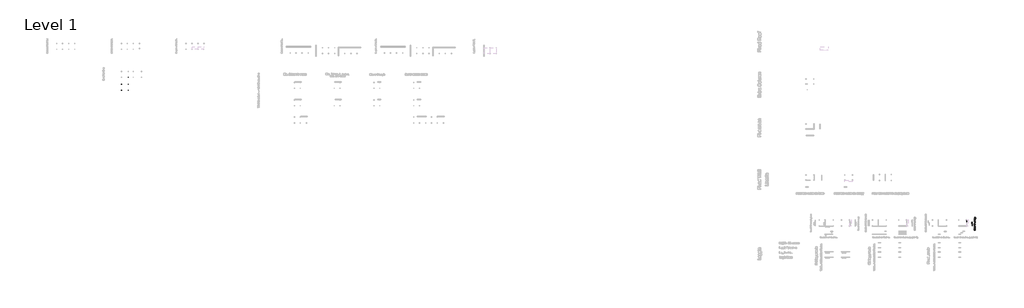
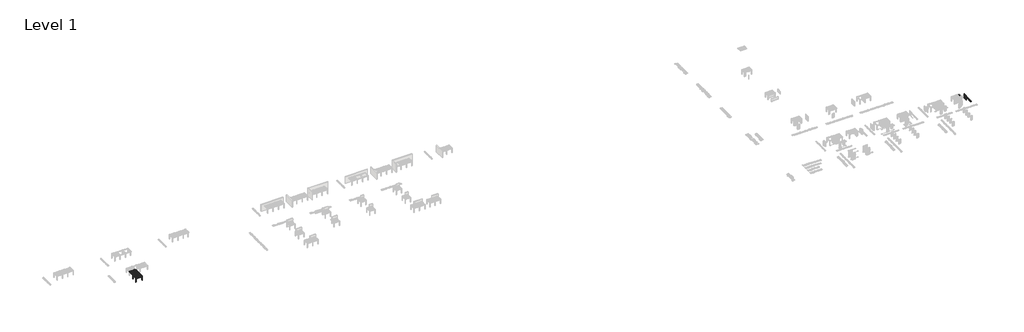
# One storey, part 40 of 80: 5 proxies.
"""IFC4 building model written with IfcOpenShell, lengths in millimetres."""

from ifc_helpers import new_model, si_unit, origin, origin_with_axes, place, context, project, spatial, polyline, outline, extrude, transform, mapped, element, save
from components import generic_models_fa1a9668, generic_models_32e5b0d9

model = new_model("IFC4")

# Units and contexts
model_context = context("Model", 3, world=origin())
ifc_project = project(units=[si_unit("LENGTHUNIT", "METRE", prefix="MILLI")], contexts=[model_context])

# Site, building, storey
site = spatial("IfcSite", under=ifc_project)
building = spatial("IfcBuilding", under=site)
storey = spatial("IfcBuildingStorey", under=building, Name="Level 1", Elevation=0.0)

# Proxies
placement = place(None, origin())
generic_models_shape = generic_models_fa1a9668(model_context)
element("IfcBuildingElementProxy", 1, Name="Renson_Amani_Loggia_Paro_Aluminium_Fix : Renson_Amani_Loggia_Paro_Aluminium_Fix", ObjectType="Renson_Amani_Loggia_Paro_Aluminium_Fix : Renson_Amani_Loggia_Paro_Aluminium_Fix", at=placement, inside=storey, context=model_context, shape_type="MappedRepresentation", body=[
    mapped(generic_models_shape, transform((461910.5749426, -38659.318181, 0.0), x_axis=(0.0, -1.0, 0.0), y_axis=(1.0, 0.0, 0.0), z_axis=(0.0, 0.0, 1.0))),
])
element("IfcBuildingElementProxy", 2, Name="Renson_Amani_Loggia_Paro_Aluminium_Fix : Renson_Amani_Loggia_Paro_Aluminium_Fix", ObjectType="Renson_Amani_Loggia_Paro_Aluminium_Fix : Renson_Amani_Loggia_Paro_Aluminium_Fix", at=placement, inside=storey, context=model_context, shape_type="MappedRepresentation", body=[
    mapped(generic_models_shape, transform((464460.6598644, -39559.318181, 0.0), x_axis=(0.0, -1.0, 0.0), y_axis=(1.0, 0.0, 0.0), z_axis=(0.0, 0.0, 1.0))),
])
element("IfcBuildingElementProxy", 3, Name="Renson_Amani_Loggia_Paro_Aluminium_Fix : Renson_Amani_Loggia_Paro_Aluminium_Fix", ObjectType="Renson_Amani_Loggia_Paro_Aluminium_Fix : Renson_Amani_Loggia_Paro_Aluminium_Fix", at=placement, inside=storey, context=model_context, shape_type="MappedRepresentation", body=[
    mapped(generic_models_shape, transform((464546.7447862, -40459.318181, 0.0), x_axis=(0.0, -1.0, 0.0), y_axis=(1.0, 0.0, 0.0), z_axis=(0.0, 0.0, 1.0))),
])
generic_models_2_shape = generic_models_32e5b0d9(model_context)
element("IfcBuildingElementProxy", 4, Name="Renson_Amani_Patio_Cover : Renson_Amani_Patio_Cover", ObjectType="Renson_Amani_Patio_Cover : Renson_Amani_Patio_Cover", at=placement, inside=storey, context=model_context, shape_type="MappedRepresentation", body=[
    mapped(generic_models_2_shape, transform((48903.165057, 30228.5861401, 0.0), x_axis=(0.0, -1.0, 0.0), y_axis=(1.0, 0.0, 0.0), z_axis=(0.0, 0.0, 1.0))),
])
element("IfcBuildingElementProxy", 5, Name="500mm Arial", ObjectType="500mm Arial", at=placement, inside=storey, context=model_context, shape_type="SweptSolid", body=[
    extrude(outline(polyline([(466050.5945715, -43163.3057532), (465548.3130208, -43163.3057532), (465548.3130208, -43100.5205594), (466050.5945715, -43100.5205594), (466050.5945715, -43163.3057532)])), origin_with_axes(), (0.0, 0.0, 1.0), 5.0),
    extrude(outline(polyline([(466050.5945715, -42982.7983209), (465681.7315577, -42982.7983209), (465681.7315577, -42920.0131271), (465733.235037, -42920.0131271), (465707.2686995, -42898.2007904), (465688.7213156, -42872.0045267), (465677.5928852, -42841.4243358), (465673.8834085, -42806.4602179), (465676.8724497, -42775.512145), (465685.8395733, -42747.169903), (465699.665805, -42723.5334848), (465717.2321702, -42706.7028835), (465738.4926839, -42695.2832133), (465763.4013606, -42687.8795881), (465824.1018898, -42684.5686501), (466050.5945715, -42684.5686501), (466050.5945715, -42747.353844), (465832.5631757, -42747.353844), (465800.0975896, -42749.1625971), (465777.0129944, -42754.5888566), (465760.4736331, -42764.5983125), (465747.6437485, -42780.1566552), (465739.4123889, -42800.098925), (465736.6686023, -42823.2601623), (465738.2091082, -42842.3248803), (465742.8306257, -42860.0330334), (465750.533155, -42876.3846217), (465761.316696, -42891.3796451), (465776.407522, -42903.9067935), (465797.0319063, -42912.8547566), (465823.189849, -42918.2235344), (465854.8813501, -42920.0131271), (466050.5945715, -42920.0131271), (466050.5945715, -42982.7983209)])), origin_with_axes(), (0.0, 0.0, 1.0), 5.0),
    extrude(outline(polyline([(465940.7204823, -42621.7834563), (465932.8723331, -42558.9982625), (465959.7277187, -42549.0961054), (465979.4707191, -42529.9355848), (465991.610825, -42501.3940734), (465995.6575269, -42463.3489437), (465991.9480501, -42425.7636665), (465980.8196198, -42399.3374766), (465964.6941257, -42383.7024918), (465945.9934576, -42378.4908302), (465929.9905908, -42383.7331486), (465917.7891713, -42399.4601039), (465899.8855808, -42464.0847077), (465883.3155626, -42521.3823285), (465869.1674342, -42558.6303805), (465853.7317189, -42582.5580386), (465833.2989397, -42599.8944776), (465809.1720122, -42610.4250997), (465782.6538517, -42613.9353071), (465758.3276548, -42611.1148784), (465735.8715247, -42602.6535926), (465716.1745095, -42589.3178702), (465700.1256575, -42571.8741323), (465690.024231, -42554.5376933), (465681.5476167, -42531.9589358), (465675.7994605, -42505.8546426), (465673.8834085, -42477.9415962), (465676.9644202, -42437.0760379), (465686.2074553, -42401.5447685), (465700.7081373, -42372.9726002), (465719.5620895, -42352.9843452), (465744.164198, -42339.7405933), (465775.9093485, -42331.4019348), (465783.7574977, -42394.1871286), (465763.9991689, -42402.1119199), (465749.1152765, -42417.79289), (465739.7802709, -42441.3833229), (465736.6686023, -42473.0365029), (465739.6423151, -42509.0889384), (465748.5634535, -42533.1238955), (465761.4393233, -42546.6435588), (465776.2772305, -42551.1501132), (465785.9341328, -42549.2800464), (465794.5487029, -42543.669846), (465802.2435679, -42534.0742573), (465808.4055914, -42520.2480256), (465821.7719705, -42466.1693723), (465851.3251575, -42374.0149325), (465865.4579575, -42349.6734072), (465884.802419, -42331.2179938), (465909.4198559, -42319.5837257), (465939.3715817, -42315.7056363), (465970.3349829, -42320.258176), (465999.4589742, -42333.9157951), (466024.4596215, -42356.1573274), (466043.0529906, -42386.4616067), (466054.5952882, -42423.0658652), (466058.4427208, -42464.207335), (466056.5879824, -42497.9988291), (466051.0237672, -42527.513695), (466041.7500752, -42552.7519327), (466028.7669065, -42573.7135423), (466012.1355746, -42590.8353835), (465991.9173933, -42604.5543162), (465968.1123625, -42614.8703405), (465940.7204823, -42621.7834563)])), origin_with_axes(), (0.0, 0.0, 1.0), 5.0),
    extrude(outline(polyline([(465940.7204823, -41986.8191326), (465948.5686315, -41925.2602121), (465973.2243894, -41934.6986845), (465994.9524198, -41947.4404307), (466013.7527225, -41963.4854507), (466029.6252978, -41982.8337443), (466042.2329203, -42005.2860424), (466051.238365, -42030.6430753), (466056.6416318, -42058.9048432), (466058.4427208, -42090.0713459), (466055.3348843, -42129.0285164), (466046.011375, -42163.7397155), (466030.4721928, -42194.2049432), (466008.7173377, -42220.4241996), (465981.3522822, -42241.5084364), (465948.9824988, -42256.5686056), (465911.6079873, -42265.6047071), (465869.2287479, -42268.6167409), (465825.4124694, -42265.5740503), (465786.7925242, -42256.4459783), (465753.368912, -42241.2325249), (465725.1416331, -42219.9336902), (465702.7161598, -42193.7834117), (465686.6979646, -42164.015627), (465677.0870475, -42130.6303359), (465673.8834085, -42093.6275386), (465677.0793833, -42057.8165256), (465686.6673078, -42025.4314137), (465702.647182, -41996.4722029), (465725.0190058, -41970.9388932), (465753.184971, -41950.0960789), (465786.5472695, -41935.2083544), (465825.1059011, -41926.2757197), (465868.8608659, -41923.2981748), (465885.7834377, -41923.6660568), (465885.7834377, -42205.8315471), (465910.8377344, -42202.1948803), (465932.7803626, -42194.9636998), (465951.6113222, -42184.1380057), (465967.3306133, -42169.7177979), (465979.723638, -42152.5001541), (465988.5757985, -42133.282152), (465993.8870948, -42112.0637915), (465995.6575269, -42088.8450726), (465992.3772458, -42055.4291247), (465982.5364024, -42027.2861521), (465965.5218601, -42004.4161547), (465940.7204823, -41986.8191326)]), holes=[polyline([(465822.9982438, -42205.8315471), (465822.9982438, -41986.0833686), (465789.8275506, -41994.5753114), (465766.0991619, -42011.2219716), (465753.2232921, -42028.3438128), (465744.0262422, -42047.8262302), (465738.5080123, -42069.6692236), (465736.6686023, -42093.8727932), (465742.5393858, -42136.1945511), (465749.8778652, -42154.6078114), (465760.1517363, -42171.1893259), (465772.8858183, -42185.1036959), (465787.6049302, -42195.5155228), (465804.3090721, -42202.4248065), (465822.9982438, -42205.8315471)])]), origin_with_axes(), (0.0, 0.0, 1.0), 5.0),
    extrude(outline(polyline([(465998.2327009, -41491.6499671), (466052.4339815, -41483.8018179), (466058.4427208, -41530.7680859), (466055.83689, -41560.9037527), (466048.0193976, -41583.3752112), (466035.9712622, -41599.2554507), (466020.6735026, -41609.6174602), (465994.4005968, -41615.3196312), (465949.4270229, -41617.2203548), (465744.5167515, -41617.2203548), (465744.5167515, -41664.3092502), (465693.2585269, -41664.3092502), (465681.7315577, -41664.3092502), (465681.7315577, -41617.2203548), (465592.0909782, -41617.2203548), (465555.1801514, -41554.435161), (465681.7315577, -41554.435161), (465681.7315577, -41491.6499671), (465744.5167515, -41491.6499671), (465744.5167515, -41554.435161), (465947.5876129, -41554.435161), (465979.9612285, -41551.124223), (465991.426884, -41540.3943315), (465995.6575269, -41518.9958621), (465998.2327009, -41491.6499671)])), origin_with_axes(), (0.0, 0.0, 1.0), 5.0),
    extrude(outline(polyline([(466050.5945715, -41860.5129809), (465681.7315577, -41860.5129809), (465681.7315577, -41805.5759363), (465736.3007203, -41805.5759363), (465704.6628687, -41785.2811129), (465686.0235143, -41766.5804448), (465676.9184349, -41747.8184631), (465673.8834085, -41727.3396987), (465678.7271881, -41696.0697291), (465693.2585269, -41664.3092502), (465749.5444721, -41685.2785239), (465739.8875698, -41707.3514436), (465736.6686023, -41729.4243633), (465739.7649424, -41748.1710167), (465749.0539628, -41764.9249759), (465763.8305563, -41778.4599676), (465783.3896157, -41787.5497186), (465818.4610326, -41795.18327), (465856.7207601, -41797.7277871), (466050.5945715, -41797.7277871), (466050.5945715, -41860.5129809)])), origin_with_axes(), (0.0, 0.0, 1.0), 5.0),
    extrude(outline(polyline([(465940.7204823, -41452.409221), (465932.8723331, -41389.6240271), (465959.7277187, -41379.7218701), (465979.4707191, -41360.5613495), (465991.610825, -41332.019838), (465995.6575269, -41293.9747084), (465991.9480501, -41256.3894312), (465980.8196198, -41229.9632412), (465964.6941257, -41214.3282564), (465945.9934576, -41209.1165948), (465929.9905908, -41214.3589133), (465917.7891713, -41230.0858685), (465899.8855808, -41294.7104724), (465883.3155626, -41352.0080931), (465869.1674342, -41389.2561451), (465853.7317189, -41413.1838032), (465833.2989397, -41430.5202423), (465809.1720122, -41441.0508644), (465782.6538517, -41444.5610717), (465758.3276548, -41441.7406431), (465735.8715247, -41433.2793572), (465716.1745095, -41419.9436349), (465700.1256575, -41402.499897), (465690.024231, -41385.1634579), (465681.5476167, -41362.5847005), (465675.7994605, -41336.4804072), (465673.8834085, -41308.5673609), (465676.9644202, -41267.7018026), (465686.2074553, -41232.1705332), (465700.7081373, -41203.5983649), (465719.5620895, -41183.6101098), (465744.164198, -41170.366358), (465775.9093485, -41162.0276994), (465783.7574977, -41224.8128933), (465763.9991689, -41232.7376846), (465749.1152765, -41248.4186546), (465739.7802709, -41272.0090876), (465736.6686023, -41303.6622676), (465739.6423151, -41339.7147031), (465748.5634535, -41363.7496601), (465761.4393233, -41377.2693235), (465776.2772305, -41381.7758779), (465785.9341328, -41379.9058111), (465794.5487029, -41374.2956107), (465802.2435679, -41364.7000219), (465808.4055914, -41350.8737903), (465821.7719705, -41296.795137), (465851.3251575, -41204.6406972), (465865.4579575, -41180.2991719), (465884.802419, -41161.8437584), (465909.4198559, -41150.2094903), (465939.3715817, -41146.331401), (465970.3349829, -41150.8839407), (465999.4589742, -41164.5415597), (466024.4596215, -41186.783092), (466043.0529906, -41217.0873714), (466054.5952882, -41253.6916299), (466058.4427208, -41294.8330997), (466056.5879824, -41328.6245938), (466051.0237672, -41358.1394597), (466041.7500752, -41383.3776974), (466028.7669065, -41404.3393069), (466012.1355746, -41421.4611481), (465991.9173933, -41435.1800809), (465968.1123625, -41445.4961051), (465940.7204823, -41452.409221)])), origin_with_axes(), (0.0, 0.0, 1.0), 5.0),
    extrude(outline(polyline([(466050.5945715, -40816.7091333), (466050.5945715, -40879.4943271), (465548.3130208, -40879.4943271), (465548.3130208, -40816.7091333), (465734.5839377, -40816.7091333), (465708.0274561, -40796.0617563), (465689.0585408, -40772.7472349), (465677.6771915, -40746.765569), (465673.8834085, -40718.1167586), (465677.3016453, -40685.7737998), (465687.556356, -40655.2089374), (465704.0037468, -40628.1696108), (465726.0000244, -40606.4032594), (465753.330591, -40589.3427319), (465785.7808487, -40576.4208768), (465822.0018968, -40568.2814876), (465860.6448347, -40565.5683579), (465905.2351982, -40568.3772902), (465944.4606159, -40576.8040872), (465978.3210879, -40590.8487488), (466006.8166141, -40610.511275), (466029.4030358, -40634.1132043), (466045.5361941, -40659.9760749), (466055.2160891, -40688.099887), (466058.4427208, -40718.4846406), (466054.2810557, -40748.0761486), (466041.7960605, -40774.3107334), (466020.9877351, -40797.1883949), (465991.8560796, -40816.7091333), (466050.5945715, -40816.7091333)]), holes=[polyline([(465863.5878906, -40816.7091333), (465915.9497613, -40812.4171767), (465935.7847322, -40807.0522309), (465951.3890602, -40799.5413069), (465970.7565144, -40784.3278535), (465984.5904102, -40766.6465251), (465992.8907477, -40746.4973217), (465995.6575269, -40723.8802432), (465993.6188475, -40705.102933), (465987.5028094, -40687.6438667), (465977.3094124, -40671.5030441), (465963.0386567, -40656.6804654), (465944.7288632, -40644.2874407), (465922.418353, -40635.4352802), (465896.1071262, -40630.1239839), (465865.7951826, -40628.3535518), (465834.9084234, -40630.0511739), (465808.3442777, -40635.1440403), (465786.1027454, -40643.6321509), (465768.1838266, -40655.5155057), (465754.395916, -40669.805422), (465744.5474084, -40685.5132168), (465738.6383038, -40702.6388901), (465736.6686023, -40721.1824419), (465738.7072817, -40739.9597521), (465744.8233199, -40757.4188184), (465755.0167168, -40773.5596409), (465769.2874725, -40788.3822197), (465787.413325, -40800.7752444), (465809.1720122, -40809.6274049), (465834.5635341, -40814.9387012), (465863.5878906, -40816.7091333)])]), origin_with_axes(), (0.0, 0.0, 1.0), 5.0),
    extrude(outline(polyline([(465940.7204823, -40236.6818542), (465948.5686315, -40175.1229337), (465973.2243894, -40184.5614062), (465994.9524198, -40197.3031523), (466013.7527225, -40213.3481723), (466029.6252978, -40232.696466), (466042.2329203, -40255.148764), (466051.238365, -40280.5057969), (466056.6416318, -40308.7675648), (466058.4427208, -40339.9340676), (466055.3348843, -40378.891238), (466046.011375, -40413.6024371), (466030.4721928, -40444.0676648), (466008.7173377, -40470.2869212), (465981.3522822, -40491.371158), (465948.9824988, -40506.4313272), (465911.6079873, -40515.4674287), (465869.2287479, -40518.4794625), (465825.4124694, -40515.4367719), (465786.7925242, -40506.3086999), (465753.368912, -40491.0952465), (465725.1416331, -40469.7964118), (465702.7161598, -40443.6461334), (465686.6979646, -40413.8783486), (465677.0870475, -40380.4930575), (465673.8834085, -40343.4902602), (465677.0793833, -40307.6792472), (465686.6673078, -40275.2941353), (465702.647182, -40246.3349245), (465725.0190058, -40220.8016148), (465753.184971, -40199.9588005), (465786.5472695, -40185.071076), (465825.1059011, -40176.1384413), (465868.8608659, -40173.1608964), (465885.7834377, -40173.5287784), (465885.7834377, -40455.6942687), (465910.8377344, -40452.0576019), (465932.7803626, -40444.8264214), (465951.6113222, -40434.0007273), (465967.3306133, -40419.5805195), (465979.723638, -40402.3628757), (465988.5757985, -40383.1448736), (465993.8870948, -40361.9265131), (465995.6575269, -40338.7077942), (465992.3772458, -40305.2918463), (465982.5364024, -40277.1488737), (465965.5218601, -40254.2788763), (465940.7204823, -40236.6818542)]), holes=[polyline([(465822.9982438, -40455.6942687), (465822.9982438, -40235.9460902), (465789.8275506, -40244.438033), (465766.0991619, -40261.0846933), (465753.2232921, -40278.2065344), (465744.0262422, -40297.6889518), (465738.5080123, -40319.5319452), (465736.6686023, -40343.7355148), (465742.5393858, -40386.0572727), (465749.8778652, -40404.470533), (465760.1517363, -40421.0520475), (465772.8858183, -40434.9664175), (465787.6049302, -40445.3782444), (465804.3090721, -40452.2875281), (465822.9982438, -40455.6942687)])]), origin_with_axes(), (0.0, 0.0, 1.0), 5.0),
    extrude(outline(polyline([(466050.5945715, -40110.3757026), (465548.3130208, -40110.3757026), (465548.3130208, -40047.5905087), (466050.5945715, -40047.5905087), (466050.5945715, -40110.3757026)])), origin_with_axes(), (0.0, 0.0, 1.0), 5.0),
    extrude(outline(polyline([(465866.1630646, -39969.1090164), (465818.3920547, -39965.7137722), (465777.2275923, -39955.5280394), (465742.6696774, -39938.5518182), (465714.7183099, -39914.7851085), (465696.8530405, -39890.8574504), (465684.0921338, -39864.4465888), (465676.4355898, -39835.5525237), (465673.8834085, -39804.1752552), (465676.9912449, -39769.5368661), (465686.3147542, -39738.2170792), (465701.8539364, -39710.2158944), (465723.6087915, -39685.5333118), (465750.8435554, -39665.3879405), (465782.8224643, -39650.9983895), (465819.545518, -39642.3646589), (465861.0127167, -39639.4867487), (465924.441704, -39644.575783), (465950.4770194, -39650.9370758), (465972.7262159, -39659.8428858), (465991.944218, -39671.1820819), (466008.8859503, -39684.8435331), (466023.5514128, -39700.8272393), (466035.9406054, -39719.1332007), (466052.8171919, -39759.8608032), (466058.4427208, -39804.1752552), (466055.3463806, -39839.3194821), (466046.0573603, -39870.9305089), (466030.5756596, -39899.0083358), (466008.9012787, -39923.5529627), (465981.4020996, -39943.4837362), (465948.4460042, -39957.720003), (465910.0329925, -39966.2617631), (465866.1630646, -39969.1090164)]), holes=[polyline([(465866.0404373, -39906.3238226), (465896.4941687, -39904.5074052), (465922.8628771, -39899.0581532), (465945.1465626, -39889.9760664), (465963.345225, -39877.261145), (465977.4818571, -39861.7947727), (465987.5794514, -39844.4583337), (465993.638008, -39825.2518279), (465995.6575269, -39804.1752552), (465993.6265117, -39783.2059815), (465987.5334662, -39764.0761178), (465977.3783903, -39746.785664), (465963.161284, -39731.3346202), (465944.7825127, -39718.6196987), (465922.1424415, -39709.537612), (465895.2410706, -39704.0883599), (465864.0784, -39702.2719426), (465834.5903588, -39704.0998562), (465808.9114291, -39709.5835972), (465787.0416109, -39718.7231655), (465768.9809042, -39731.5185612), (465754.8442721, -39747.0270866), (465744.7466778, -39764.306044), (465738.6881212, -39783.3554336), (465736.6686023, -39804.1752552), (465738.680457, -39825.2518279), (465744.716021, -39844.4583337), (465754.7752943, -39861.7947727), (465768.8582769, -39877.261145), (465787.0032899, -39889.9760664), (465809.2486543, -39899.0581532), (465835.5943701, -39904.5074052), (465866.0404373, -39906.3238226)])]), origin_with_axes(), (0.0, 0.0, 1.0), 5.0),
    extrude(outline(polyline([(466050.5945715, -39507.6623671), (465681.7315577, -39619.8663757), (465681.7315577, -39554.6286352), (465896.9425249, -39490.98505), (465973.8298619, -39471.9778136), (465899.7629535, -39456.4041425), (465681.7315577, -39405.7590545), (465681.7315577, -39330.9563821), (465899.1498168, -39280.5565488), (465966.2269673, -39266.6996603), (465895.4709969, -39246.8340325), (465681.7315577, -39183.0678201), (465681.7315577, -39117.5848249), (466050.5945715, -39230.6472248), (466050.5945715, -39306.5535431), (465834.2799584, -39354.7460845), (465766.8349259, -39368.7256003), (466050.5945715, -39430.8976575), (466050.5945715, -39507.6623671)])), origin_with_axes(), (0.0, 0.0, 1.0), 5.0),
    extrude(outline(polyline([(465917.1760346, -38642.7717965), (465925.0241838, -38579.9866026), (465954.6501808, -38586.8154122), (465980.865605, -38597.4916542), (466003.6704566, -38612.0153288), (466023.0647356, -38630.386436), (466038.5426041, -38651.8308906), (466049.5982245, -38675.5746077), (466056.2315967, -38701.6175873), (466058.4427208, -38729.9598293), (466055.3578769, -38765.1730341), (466046.1033455, -38796.7457399), (466030.6791264, -38824.6779468), (466009.0852197, -38848.9696548), (465981.7278284, -38868.632181), (465949.0131556, -38882.6768426), (465910.9412012, -38891.1036395), (465867.5119653, -38893.9125718), (465811.6398872, -38889.1147775), (465763.2174196, -38874.7213944), (465742.2673064, -38863.8688756), (465724.1146292, -38850.5024964), (465708.759388, -38834.622257), (465696.2015828, -38816.2281572), (465679.4629521, -38775.2246431), (465673.8834085, -38730.8182206), (465675.7994605, -38702.9626558), (465681.5476167, -38677.7665713), (465691.127877, -38655.229967), (465704.5402414, -38635.3528429), (465721.4781416, -38618.4724243), (465741.6350092, -38604.9259362), (465765.0108444, -38594.7133787), (465791.6056469, -38587.8347519), (465799.4537962, -38650.6199457), (465772.0619159, -38662.0089591), (465752.4262144, -38679.743937), (465740.6080053, -38702.8438606), (465736.6686023, -38730.3277113), (465738.607647, -38751.6610349), (465744.424781, -38770.9020297), (465754.1200045, -38788.0506956), (465767.6933172, -38803.1070327), (465785.4589519, -38815.3659338), (465807.731141, -38824.1222917), (465834.5098846, -38829.3761064), (465865.7951826, -38831.127378), (465897.5518294, -38829.4144275), (465924.6409734, -38824.2755758), (465947.0626146, -38815.7108231), (465964.816753, -38803.7201694), (465978.3095916, -38788.9627364), (465987.9473334, -38772.0976462), (465993.7299785, -38753.1248987), (465995.6575269, -38732.044494), (465990.8444041, -38699.5329226), (465976.4050358, -38672.8768064), (465965.4835391, -38662.0970975), (465951.97154, -38653.4863596), (465917.1760346, -38642.7717965)])), origin_with_axes(), (0.0, 0.0, 1.0), 5.0),
    extrude(outline(polyline([(466003.5056761, -38289.6050811), (466029.226759, -38319.6027921), (466046.0573603, -38350.4895513), (466055.3463806, -38382.9704658), (466058.4427208, -38417.7506428), (466056.5803182, -38445.7058423), (466050.9931104, -38470.2198123), (466041.6810974, -38491.2925529), (466028.6442791, -38508.9240639), (466012.7103902, -38522.8460981), (465994.7071651, -38532.7904083), (465974.6346037, -38538.7569944), (465952.4927061, -38540.7458565), (465926.465055, -38537.7414868), (465902.8286368, -38528.728378), (465882.5951271, -38514.8255042), (465866.7762013, -38497.15184), (465854.8200364, -38476.3818357), (465846.1748095, -38453.1899416), (465836.732505, -38398.8660337), (465826.7996911, -38334.6706255), (465815.1500946, -38289.9729631), (465801.1705788, -38289.6050811), (465773.1502335, -38293.9276945), (465754.8174474, -38306.8955349), (465746.8773277, -38319.9706741), (465741.2058136, -38335.8968988), (465736.6686023, -38376.3026046), (465739.6883004, -38413.7039408), (465748.7473945, -38439.8235625), (465765.5013537, -38457.6351824), (465791.6056469, -38470.1125134), (465783.7574977, -38532.8977072), (465749.4218448, -38521.9992031), (465722.4438318, -38505.7357533), (465701.8117833, -38482.5898444), (465686.5140236, -38451.0439633), (465677.0410623, -38412.4623391), (465673.8834085, -38368.2092007), (465676.6731803, -38325.7648155), (465685.0424957, -38292.1189414), (465697.6271256, -38266.7504121), (465713.062841, -38249.1380616), (465732.1467195, -38237.4578083), (465755.6758387, -38229.8855705), (465810.6128833, -38226.8198873), (465888.7264936, -38226.8198873), (465997.8035052, -38223.6315766), (466024.7661898, -38218.9104244), (466050.5945715, -38211.1235888), (466050.5945715, -38273.9087826), (466028.7669065, -38283.9642238), (466003.5056761, -38289.6050811)]), holes=[polyline([(465877.9352885, -38289.6050811), (465888.3892685, -38331.7888832), (465897.1877795, -38390.8952571), (465907.3658481, -38444.9125967), (465914.3249491, -38458.9687546), (465923.9205379, -38469.3767494), (465935.4168502, -38475.8146843), (465948.0781222, -38477.9606626), (465966.7481335, -38473.2854956), (465982.0458931, -38459.2599945), (465992.2546185, -38436.1907278), (465995.6575269, -38404.3842636), (465991.9020649, -38370.6617474), (465980.6356788, -38340.8633058), (465964.0350037, -38316.7057214), (465944.2766749, -38299.905777), (465923.9205379, -38292.4561666), (465895.7162516, -38289.9729631), (465877.9352885, -38289.6050811)])]), origin_with_axes(), (0.0, 0.0, 1.0), 5.0),
    extrude(outline(polyline([(466050.5945715, -38140.4902457), (465681.7315577, -38140.4902457), (465681.7315577, -38077.7050519), (465733.235037, -38077.7050519), (465707.2686995, -38055.8927152), (465688.7213156, -38029.6964515), (465677.5928852, -37999.1162607), (465673.8834085, -37964.1521427), (465676.8724497, -37933.2040699), (465685.8395733, -37904.8618278), (465699.665805, -37881.2254096), (465717.2321702, -37864.3948083), (465738.4926839, -37852.9751381), (465763.4013606, -37845.5715129), (465824.1018898, -37842.260575), (466050.5945715, -37842.260575), (466050.5945715, -37905.0457688), (465832.5631757, -37905.0457688), (465800.0975896, -37906.854522), (465777.0129944, -37912.2807814), (465760.4736331, -37922.2902373), (465747.6437485, -37937.84858), (465739.4123889, -37957.7908499), (465736.6686023, -37980.9520871), (465738.2091082, -38000.0168051), (465742.8306257, -38017.7249582), (465750.533155, -38034.0765465), (465761.316696, -38049.0715699), (465776.407522, -38061.5987183), (465797.0319063, -38070.5466814), (465823.189849, -38075.9154593), (465854.8813501, -38077.7050519), (466050.5945715, -38077.7050519), (466050.5945715, -38140.4902457)])), origin_with_axes(), (0.0, 0.0, 1.0), 5.0),
    extrude(outline(polyline([(465866.1630646, -37771.6272319), (465818.3920547, -37768.2319876), (465777.2275923, -37758.0462549), (465742.6696774, -37741.0700337), (465714.7183099, -37717.3033239), (465696.8530405, -37693.3756658), (465684.0921338, -37666.9648043), (465676.4355898, -37638.0707392), (465673.8834085, -37606.6934707), (465676.9912449, -37572.0550816), (465686.3147542, -37540.7352947), (465701.8539364, -37512.7341099), (465723.6087915, -37488.0515273), (465750.8435554, -37467.9061559), (465782.8224643, -37453.516605), (465819.545518, -37444.8828744), (465861.0127167, -37442.0049642), (465924.441704, -37447.0939985), (465950.4770194, -37453.4552913), (465972.7262159, -37462.3611013), (465991.944218, -37473.7002974), (466008.8859503, -37487.3617485), (466023.5514128, -37503.3454548), (466035.9406054, -37521.6514162), (466052.8171919, -37562.3790187), (466058.4427208, -37606.6934707), (466055.3463806, -37641.8376976), (466046.0573603, -37673.4487244), (466030.5756596, -37701.5265513), (466008.9012787, -37726.0711782), (465981.4020996, -37746.0019517), (465948.4460042, -37760.2382185), (465910.0329925, -37768.7799785), (465866.1630646, -37771.6272319)]), holes=[polyline([(465866.0404373, -37708.842038), (465896.4941687, -37707.0256207), (465922.8628771, -37701.5763686), (465945.1465626, -37692.4942819), (465963.345225, -37679.7793604), (465977.4818571, -37664.3129882), (465987.5794514, -37646.9765492), (465993.638008, -37627.7700434), (465995.6575269, -37606.6934707), (465993.6265117, -37585.724197), (465987.5334662, -37566.5943332), (465977.3783903, -37549.3038795), (465963.161284, -37533.8528357), (465944.7825127, -37521.1379142), (465922.1424415, -37512.0558275), (465895.2410706, -37506.6065754), (465864.0784, -37504.7901581), (465834.5903588, -37506.6180717), (465808.9114291, -37512.1018127), (465787.0416109, -37521.241381), (465768.9809042, -37534.0367767), (465754.8442721, -37549.545302), (465744.7466778, -37566.8242595), (465738.6881212, -37585.8736491), (465736.6686023, -37606.6934707), (465738.680457, -37627.7700434), (465744.716021, -37646.9765492), (465754.7752943, -37664.3129882), (465768.8582769, -37679.7793604), (465787.0032899, -37692.4942819), (465809.2486543, -37701.5763686), (465835.5943701, -37707.0256207), (465866.0404373, -37708.842038)])]), origin_with_axes(), (0.0, 0.0, 1.0), 5.0),
    extrude(outline(polyline([(466191.8612577, -37371.3716211), (465681.7315577, -37371.3716211), (465681.7315577, -37308.5864273), (465743.2904782, -37308.5864273), (465712.9248852, -37288.1076629), (465691.2351759, -37265.1763519), (465678.2213503, -37238.4435935), (465673.8834085, -37206.5604873), (465675.4009217, -37184.6638444), (465679.9534614, -37164.1007737), (465687.5410275, -37144.8712752), (465698.1636201, -37126.975349), (465711.5453277, -37110.8038696), (465727.4102388, -37096.7477117), (465766.5896712, -37074.9813604), (465812.8508321, -37061.829579), (465863.342636, -37057.4456519), (465917.0380789, -37062.3967304), (465965.0620076, -37077.249966), (465986.3378497, -37088.2710974), (466004.9772041, -37101.5301777), (466020.9800709, -37117.0272067), (466034.3464501, -37134.7621846), (466052.4186531, -37173.4664361), (466058.4427208, -37214.1633819), (466054.4113472, -37243.0267901), (466042.3172266, -37268.7938581), (466024.0610826, -37290.8514494), (466001.5436388, -37308.5864273), (466191.8612577, -37308.5864273), (466191.8612577, -37371.3716211)]), holes=[polyline([(465869.1061206, -37308.5864273), (465899.3644147, -37306.8888052), (465925.3920658, -37301.7959388), (465947.189074, -37293.3078282), (465964.7554393, -37281.4244733), (465978.2751026, -37267.1192287), (465987.932005, -37251.3654486), (465993.7261464, -37234.1631332), (465995.6575269, -37215.5122825), (465993.6571686, -37196.5931845), (465987.6560935, -37179.0766366), (465977.6543018, -37162.9626388), (465963.6517933, -37148.2511911), (465945.4492988, -37135.99229), (465922.8475487, -37127.2359321), (465895.8465431, -37121.9821173), (465864.446282, -37120.2308458), (465834.4485709, -37121.9399642), (465808.466905, -37127.0673195), (465786.5012842, -37135.6129117), (465768.5517086, -37147.5767407), (465754.6028496, -37161.9164743), (465744.6393789, -37177.5897802), (465738.6612964, -37194.5966582), (465736.6686023, -37212.9371085), (465738.7877559, -37231.2200773), (465745.1452166, -37248.4223927), (465755.7409845, -37264.5440547), (465770.5750595, -37279.5850633), (465789.4481723, -37292.2731601), (465812.1610534, -37301.3360863), (465838.7137028, -37306.773842), (465869.1061206, -37308.5864273)])]), origin_with_axes(), (0.0, 0.0, 1.0), 5.0),
    extrude(outline(polyline([(466191.8612577, -36986.8123088), (466131.4059831, -36994.6604581), (466136.9242131, -36962.7773518), (466135.192102, -36946.0080642), (466129.9957688, -36932.9789102), (466121.7030955, -36922.8314985), (466110.6819641, -36914.7074378), (466064.45146, -36897.5396113), (466049.2456709, -36892.6345181), (465681.7315577, -37026.053055), (465681.7315577, -36959.8342959), (465886.5192017, -36889.0783255), (465968.4342593, -36864.4302318), (465896.0841336, -36839.7821381), (465681.7315577, -36767.0641304), (465681.7315577, -36701.3358806), (466059.4237394, -36829.7266969), (466141.338797, -36863.0813311), (466167.4890755, -36880.1571871), (466185.6072638, -36899.5016487), (466196.1838711, -36921.9731072), (466199.7094069, -36948.429954), (466197.7473696, -36966.6094559), (466191.8612577, -36986.8123088)])), origin_with_axes(), (0.0, 0.0, 1.0), 5.0),
])

save(model, "model.ifc")
